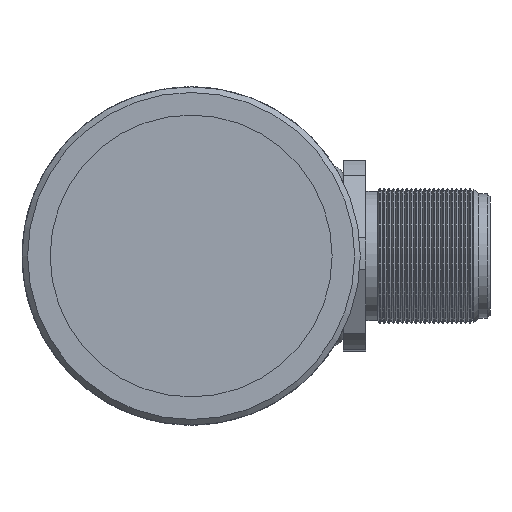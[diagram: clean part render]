
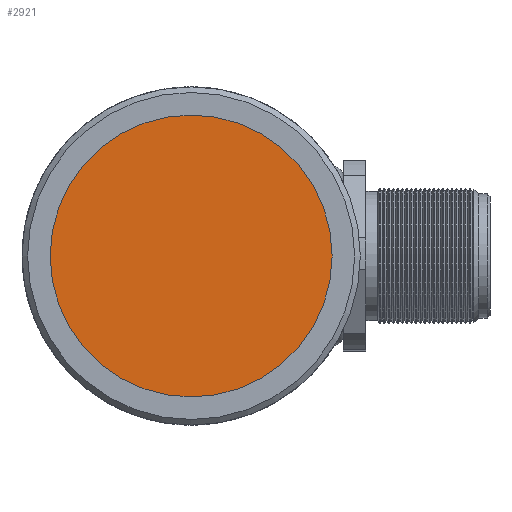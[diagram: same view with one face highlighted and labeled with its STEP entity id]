
A CAD part, left-side view. The second image highlights one B-rep face of the part: STEP entity #2921.
In plain terms, the highlighted planar face has unit normal (-1, 0, 0).
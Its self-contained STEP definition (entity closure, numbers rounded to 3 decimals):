
#760=VERTEX_POINT('',#4408);
#989=CIRCLE('',#3159,12.5);
#1195=EDGE_CURVE('',#760,#760,#989,.T.);
#1583=ORIENTED_EDGE('',*,*,#1195,.T.);
#2269=EDGE_LOOP('',(#1583));
#2600=FACE_BOUND('',#2269,.T.);
#2921=ADVANCED_FACE('',(#2600),#5261,.F.);
#3159=AXIS2_PLACEMENT_3D('',#4407,#3530,#3531);
#3160=AXIS2_PLACEMENT_3D('',#4409,#3532,$);
#3530=DIRECTION('',(-1.,0.,0.));
#3531=DIRECTION('',(0.,0.,-12.5));
#3532=DIRECTION('',(1.,0.,0.));
#4407=CARTESIAN_POINT('',(-34.,0.,0.));
#4408=CARTESIAN_POINT('',(-34.,0.,-12.5));
#4409=CARTESIAN_POINT('',(-34.,0.,0.));
#5261=PLANE('',#3160);
